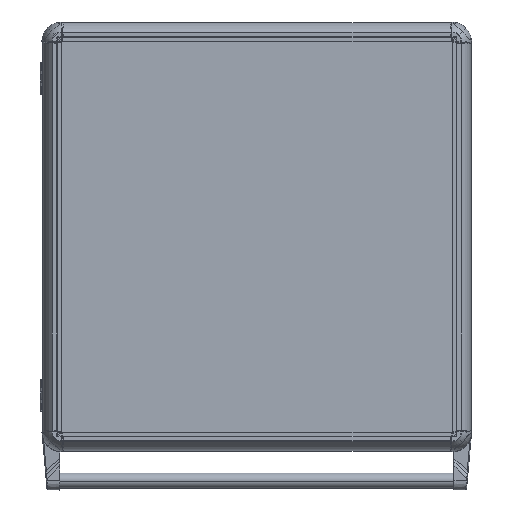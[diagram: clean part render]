
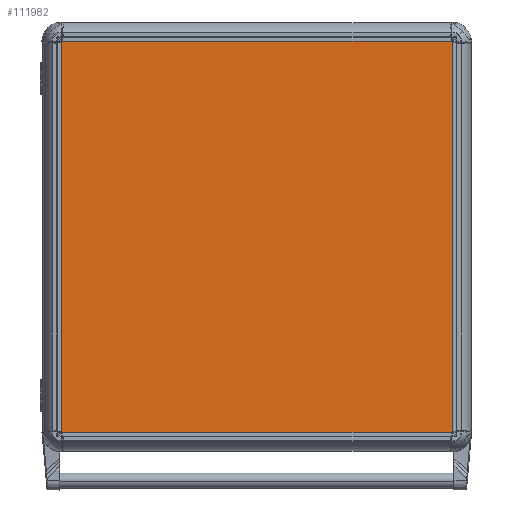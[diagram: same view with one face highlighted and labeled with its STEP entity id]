
A CAD part, top view. The second image highlights one B-rep face of the part: STEP entity #111982.
In plain terms, the highlighted planar face has unit normal (0, 0, 1).
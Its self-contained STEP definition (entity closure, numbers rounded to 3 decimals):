
#13420 = CARTESIAN_POINT ( 'NONE',  ( -250., 250., 2. ) ) ;
#24412 = DIRECTION ( 'NONE',  ( 0., 0., 1. ) ) ;
#25434 = LINE ( 'NONE', #105566, #198161 ) ;
#29550 = EDGE_LOOP ( 'NONE', ( #256892, #203782, #52614, #73486 ) ) ;
#30363 = AXIS2_PLACEMENT_3D ( 'NONE', #133028, #24412, #125574 ) ;
#30726 = LINE ( 'NONE', #191047, #72987 ) ;
#49043 = EDGE_CURVE ( 'NONE', #51073, #241861, #75483, .T. ) ;
#51073 = VERTEX_POINT ( 'NONE', #258962 ) ;
#52614 = ORIENTED_EDGE ( 'NONE', *, *, #131092, .T. ) ;
#57065 = DIRECTION ( 'NONE',  ( 0., 1., 0. ) ) ;
#72224 = VERTEX_POINT ( 'NONE', #109134 ) ;
#72987 = VECTOR ( 'NONE', #154295, 1000. ) ;
#73486 = ORIENTED_EDGE ( 'NONE', *, *, #192398, .T. ) ;
#75483 = LINE ( 'NONE', #197678, #153955 ) ;
#105566 = CARTESIAN_POINT ( 'NONE',  ( -250., 250., 2. ) ) ;
#109134 = CARTESIAN_POINT ( 'NONE',  ( -250., -250., 2. ) ) ;
#111982 = ADVANCED_FACE ( 'NONE', ( #151588 ), #145370, .T. ) ;
#125574 = DIRECTION ( 'NONE',  ( 1., 0., 0. ) ) ;
#125828 = LINE ( 'NONE', #165297, #218913 ) ;
#131092 = EDGE_CURVE ( 'NONE', #238060, #72224, #125828, .T. ) ;
#133028 = CARTESIAN_POINT ( 'NONE',  ( 0., 0., 2. ) ) ;
#145370 = PLANE ( 'NONE',  #30363 ) ;
#151588 = FACE_OUTER_BOUND ( 'NONE', #29550, .T. ) ;
#153955 = VECTOR ( 'NONE', #57065, 1000. ) ;
#154295 = DIRECTION ( 'NONE',  ( 1., 0., 0. ) ) ;
#165297 = CARTESIAN_POINT ( 'NONE',  ( -250., 250., 2. ) ) ;
#172364 = CARTESIAN_POINT ( 'NONE',  ( 250., 250., 2. ) ) ;
#178272 = EDGE_CURVE ( 'NONE', #241861, #238060, #25434, .T. ) ;
#185758 = DIRECTION ( 'NONE',  ( -1., 0., 0. ) ) ;
#191047 = CARTESIAN_POINT ( 'NONE',  ( -250., -250., 2. ) ) ;
#192398 = EDGE_CURVE ( 'NONE', #72224, #51073, #30726, .T. ) ;
#197678 = CARTESIAN_POINT ( 'NONE',  ( 250., 250., 2. ) ) ;
#198161 = VECTOR ( 'NONE', #185758, 1000. ) ;
#203782 = ORIENTED_EDGE ( 'NONE', *, *, #178272, .T. ) ;
#218913 = VECTOR ( 'NONE', #228406, 1000. ) ;
#228406 = DIRECTION ( 'NONE',  ( 0., -1., 0. ) ) ;
#238060 = VERTEX_POINT ( 'NONE', #13420 ) ;
#241861 = VERTEX_POINT ( 'NONE', #172364 ) ;
#256892 = ORIENTED_EDGE ( 'NONE', *, *, #49043, .T. ) ;
#258962 = CARTESIAN_POINT ( 'NONE',  ( 250., -250., 2. ) ) ;
